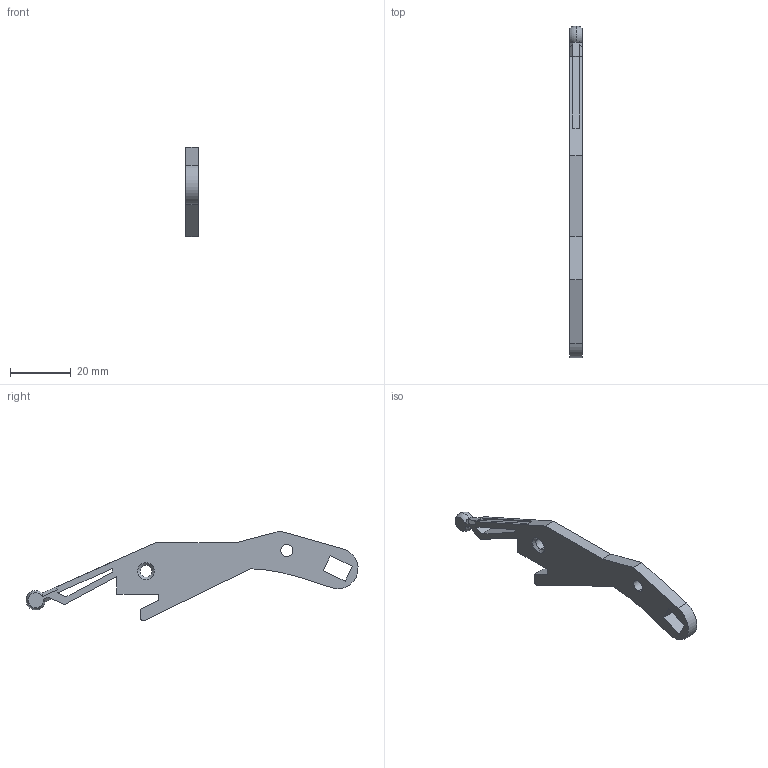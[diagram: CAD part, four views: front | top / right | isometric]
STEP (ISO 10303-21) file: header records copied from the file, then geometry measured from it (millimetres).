
FILE_DESCRIPTION (( 'STEP AP214' ), '1' );
FILE_NAME ('B1-frame-Standard.step', '2023-08-03T13:47:35', ( '' ), ( '' ), 'SwSTEP 2.0', 'SolidWorks 2020', '' );
FILE_SCHEMA (( 'AUTOMOTIVE_DESIGN' ));
Length unit declared in the file: millimetre
Products named in the file (1): B1-frame-Standard
Bounding box: 4 x 109.55 x 29.59 mm (x, y, z)
Volume: 4856.2 mm3; surface area: 3887.2 mm2
Topology: 1 solids, 1 shells, 51 faces, 138 edges, 89 vertices
Faces by surface type: plane 38, cylinder 7, cone 4, sphere 2
Entity records: 1959 total; most frequent: CARTESIAN_POINT 279, ORIENTED_EDGE 276, DIRECTION 272, EDGE_CURVE 138, VECTOR 108, LINE 108, VERTEX_POINT 89, AXIS2_PLACEMENT_3D 82
